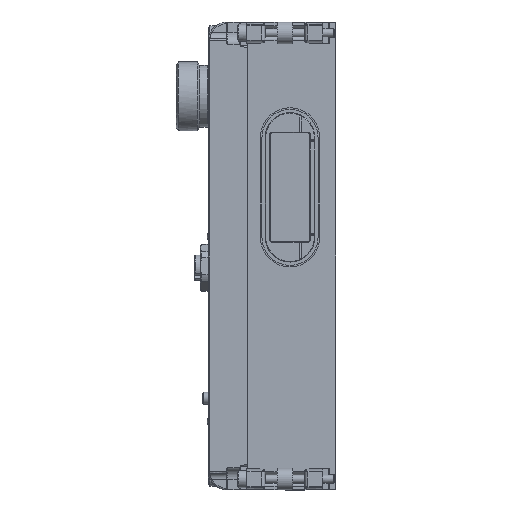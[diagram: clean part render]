
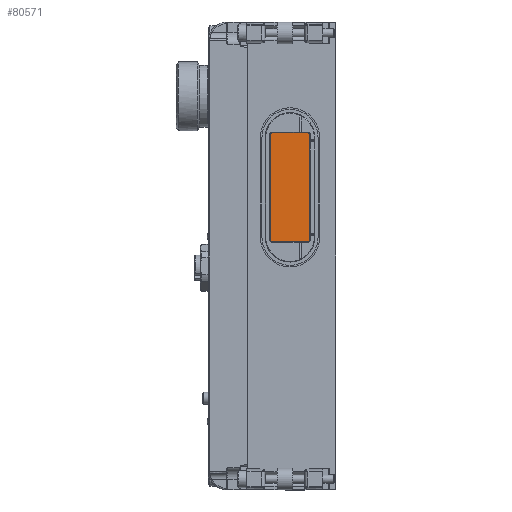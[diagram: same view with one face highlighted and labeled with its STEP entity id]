
A CAD part, left-side view. The second image highlights one B-rep face of the part: STEP entity #80571.
In plain terms, the highlighted planar face has unit normal (-1, 0, 0).
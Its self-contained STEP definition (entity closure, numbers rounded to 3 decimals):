
#1012 = ORIENTED_EDGE ( 'NONE', *, *, #8089, .F. ) ;
#1290 = CARTESIAN_POINT ( 'NONE',  ( -37.3, 6.2, 38.7 ) ) ;
#2746 = EDGE_CURVE ( 'NONE', #67942, #19541, #38243, .T. ) ;
#3907 = DIRECTION ( 'NONE',  ( 0., 0., -1. ) ) ;
#6511 = CARTESIAN_POINT ( 'NONE',  ( -37.3, 0.6, 38. ) ) ;
#8042 = DIRECTION ( 'NONE',  ( 0., 0., -1. ) ) ;
#8089 = EDGE_CURVE ( 'NONE', #67942, #10428, #81599, .T. ) ;
#8521 = CARTESIAN_POINT ( 'NONE',  ( -37.3, 7., 38.7 ) ) ;
#9245 = CARTESIAN_POINT ( 'NONE',  ( -37.3, 7., 39.5 ) ) ;
#10428 = VERTEX_POINT ( 'NONE', #8521 ) ;
#12030 = VERTEX_POINT ( 'NONE', #83458 ) ;
#12093 = VECTOR ( 'NONE', #82801, 1000. ) ;
#12973 = PLANE ( 'NONE',  #77031 ) ;
#13176 = CARTESIAN_POINT ( 'NONE',  ( -37.3, 6.2, 4.5 ) ) ;
#13270 = DIRECTION ( 'NONE',  ( 0., 0., -1. ) ) ;
#14073 = CARTESIAN_POINT ( 'NONE',  ( -37.3, -5.8, 5.3 ) ) ;
#14370 = CIRCLE ( 'NONE', #59208, 0.8 ) ;
#16023 = DIRECTION ( 'NONE',  ( 0., -1., 0. ) ) ;
#16251 = CARTESIAN_POINT ( 'NONE',  ( -37.3, -5.8, 38.7 ) ) ;
#16719 = LINE ( 'NONE', #31990, #32561 ) ;
#17710 = AXIS2_PLACEMENT_3D ( 'NONE', #41755, #64930, #25918 ) ;
#17819 = LINE ( 'NONE', #63361, #67285 ) ;
#18982 = ORIENTED_EDGE ( 'NONE', *, *, #66902, .F. ) ;
#19541 = VERTEX_POINT ( 'NONE', #13176 ) ;
#21148 = LINE ( 'NONE', #9245, #39061 ) ;
#23091 = VERTEX_POINT ( 'NONE', #51486 ) ;
#25148 = CARTESIAN_POINT ( 'NONE',  ( -37.3, -5., 39.5 ) ) ;
#25918 = DIRECTION ( 'NONE',  ( 0., 0., -1. ) ) ;
#26096 = CIRCLE ( 'NONE', #38389, 0.8 ) ;
#26718 = ORIENTED_EDGE ( 'NONE', *, *, #2746, .T. ) ;
#27012 = CARTESIAN_POINT ( 'NONE',  ( -37.3, 7., 5.3 ) ) ;
#28082 = ORIENTED_EDGE ( 'NONE', *, *, #42668, .F. ) ;
#29351 = EDGE_CURVE ( 'NONE', #12030, #10428, #26096, .T. ) ;
#29478 = EDGE_CURVE ( 'NONE', #63251, #81982, #14370, .T. ) ;
#31990 = CARTESIAN_POINT ( 'NONE',  ( -37.3, 7., 4.5 ) ) ;
#32561 = VECTOR ( 'NONE', #65452, 1000. ) ;
#33624 = EDGE_CURVE ( 'NONE', #23091, #77458, #79401, .T. ) ;
#34628 = ORIENTED_EDGE ( 'NONE', *, *, #33624, .T. ) ;
#35828 = CARTESIAN_POINT ( 'NONE',  ( -37.3, 7., 4.5 ) ) ;
#36788 = ORIENTED_EDGE ( 'NONE', *, *, #29351, .T. ) ;
#37248 = ORIENTED_EDGE ( 'NONE', *, *, #69725, .F. ) ;
#37527 = DIRECTION ( 'NONE',  ( -1., 0., 0. ) ) ;
#38243 = CIRCLE ( 'NONE', #17710, 0.8 ) ;
#38389 = AXIS2_PLACEMENT_3D ( 'NONE', #1290, #48364, #8042 ) ;
#39061 = VECTOR ( 'NONE', #16023, 1000. ) ;
#41755 = CARTESIAN_POINT ( 'NONE',  ( -37.3, 6.2, 5.3 ) ) ;
#42668 = EDGE_CURVE ( 'NONE', #12030, #81982, #21148, .T. ) ;
#44182 = DIRECTION ( 'NONE',  ( -1., 0., 0. ) ) ;
#48364 = DIRECTION ( 'NONE',  ( -1., 0., 0. ) ) ;
#51486 = CARTESIAN_POINT ( 'NONE',  ( -37.3, -5., 4.5 ) ) ;
#53612 = DIRECTION ( 'NONE',  ( 1., 0., 0. ) ) ;
#56585 = EDGE_LOOP ( 'NONE', ( #1012, #26718, #18982, #34628, #37248, #77798, #28082, #36788 ) ) ;
#57993 = FACE_OUTER_BOUND ( 'NONE', #56585, .T. ) ;
#59208 = AXIS2_PLACEMENT_3D ( 'NONE', #77745, #37527, #84520 ) ;
#59303 = AXIS2_PLACEMENT_3D ( 'NONE', #84499, #44182, #3907 ) ;
#63251 = VERTEX_POINT ( 'NONE', #16251 ) ;
#63361 = CARTESIAN_POINT ( 'NONE',  ( -37.3, -5.8, 4.5 ) ) ;
#64930 = DIRECTION ( 'NONE',  ( -1., 0., 0. ) ) ;
#65452 = DIRECTION ( 'NONE',  ( 0., 1., 0. ) ) ;
#66902 = EDGE_CURVE ( 'NONE', #23091, #19541, #16719, .T. ) ;
#67285 = VECTOR ( 'NONE', #70120, 1000. ) ;
#67942 = VERTEX_POINT ( 'NONE', #27012 ) ;
#69725 = EDGE_CURVE ( 'NONE', #63251, #77458, #17819, .T. ) ;
#70120 = DIRECTION ( 'NONE',  ( 0., 0., -1. ) ) ;
#77031 = AXIS2_PLACEMENT_3D ( 'NONE', #6511, #53612, #13270 ) ;
#77458 = VERTEX_POINT ( 'NONE', #14073 ) ;
#77745 = CARTESIAN_POINT ( 'NONE',  ( -37.3, -5., 38.7 ) ) ;
#77798 = ORIENTED_EDGE ( 'NONE', *, *, #29478, .T. ) ;
#79401 = CIRCLE ( 'NONE', #59303, 0.8 ) ;
#80571 = ADVANCED_FACE ( 'NONE', ( #57993 ), #12973, .F. ) ;
#81599 = LINE ( 'NONE', #35828, #12093 ) ;
#81982 = VERTEX_POINT ( 'NONE', #25148 ) ;
#82801 = DIRECTION ( 'NONE',  ( 0., 0., 1. ) ) ;
#83458 = CARTESIAN_POINT ( 'NONE',  ( -37.3, 6.2, 39.5 ) ) ;
#84499 = CARTESIAN_POINT ( 'NONE',  ( -37.3, -5., 5.3 ) ) ;
#84520 = DIRECTION ( 'NONE',  ( 0., 0., -1. ) ) ;
